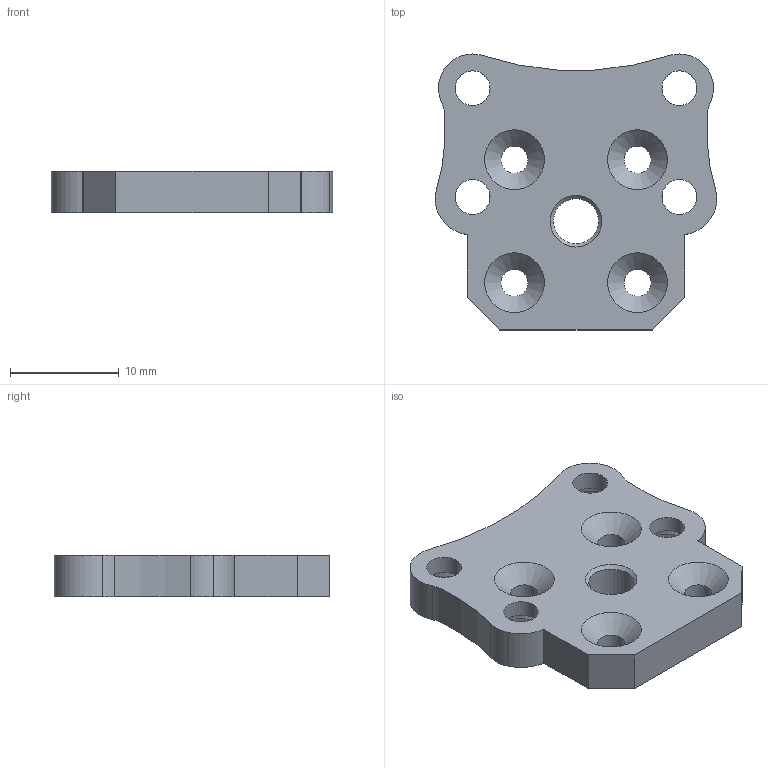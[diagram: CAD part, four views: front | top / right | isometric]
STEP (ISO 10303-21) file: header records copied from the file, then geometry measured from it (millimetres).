
FILE_DESCRIPTION(/* description */ (''),/* implementation_level */ '2;1');
FILE_NAME(/* name */ 'C:/Users/Florent/Desktop/Flathead V2.1/Dragon Shroud/Plate_Dragon.step',/* time_stamp */ '2022-04-06T02:12:01+02:00',/* author */ (''),/* organization */ (''),/* preprocessor_version */ 'ST-DEVELOPER v18.1',/* originating_system */ 'Autodesk Translation Framework v10.14.0.1471',/* authorisation */ '');
FILE_SCHEMA (('AUTOMOTIVE_DESIGN { 1 0 10303 214 3 1 1 }'));
Length unit declared in the file: millimetre
Products named in the file (1): LGX Lite plate DRAGON v1
Bounding box: 25.9 x 25.37 x 3.8 mm (x, y, z)
Volume: 1698.7 mm3; surface area: 1643 mm2
Topology: 1 solids, 1 shells, 43 faces, 115 edges, 74 vertices
Faces by surface type: cylinder 24, cone 10, plane 9
Full cylindrical faces by diameter (mm): 2.5 x4, 3.2 x4, 4.15 x1, 5.8 x4
Entity records: 1434 total; most frequent: DIRECTION 263, CARTESIAN_POINT 233, ORIENTED_EDGE 230, EDGE_CURVE 115, AXIS2_PLACEMENT_3D 104, VERTEX_POINT 74, EDGE_LOOP 61, CIRCLE 60
